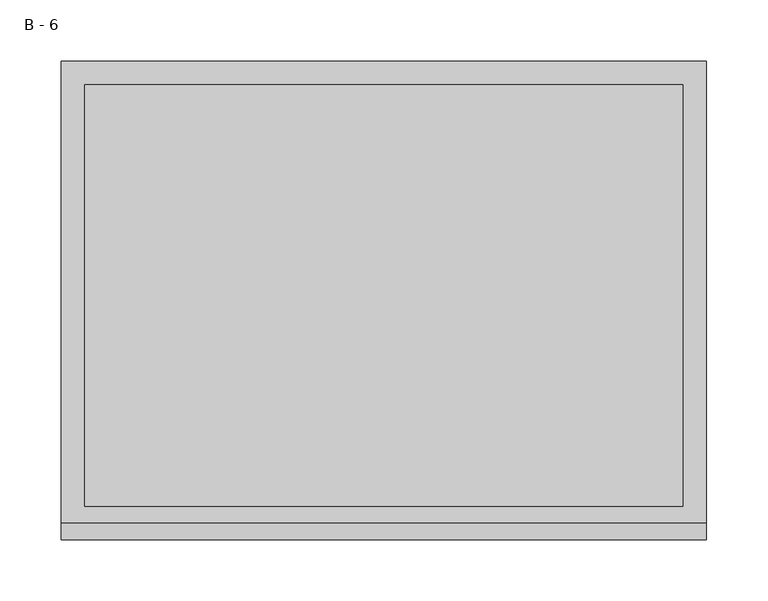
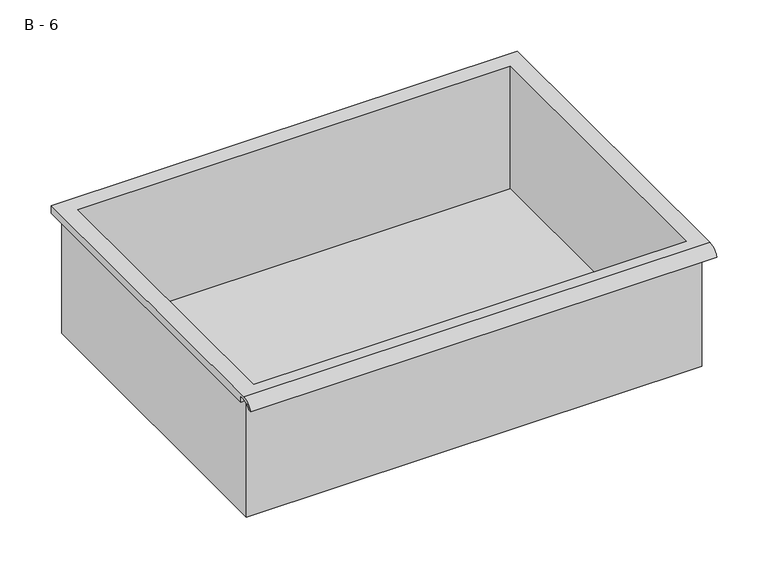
"""IFC4 building model written with IfcOpenShell, lengths in millimetres: furniture geometry, HermanMiller_CoStruc_Drawer : B - 6."""

from ifc_helpers import new_model, si_unit, frame, origin, place, context, project, spatial, polyline, circle_curve, source, transform, mapped, element, save
from ifc_brep_helpers import plane_surface, cylinder_surface, revolved_surface, advanced_brep


def b_6_50075038(model_context):
    return source(origin(), model_context, "Body", "AdvancedBrep", [
        advanced_brep(
        [(-257.1076517, -176.2125, 566.7502), (257.2423483, -176.2125, 566.7502), (257.2423483, -176.2125, 706.4502), (263.5923483, -176.2125, 706.4502), (263.5923483, -176.2125, 712.7573341), (-263.4576517, -176.2125, 712.7573341), (-263.4576517, -176.2125, 706.4502), (-257.1076517, -176.2125, 706.4502), (257.2423483, 185.7375, 566.7502), (-257.1076517, 185.7375, 566.7502), (-257.1076517, 185.7375, 706.4502), (257.2423483, 185.7375, 706.4502), (263.5923483, -181.6070544, 715.9752), (263.5923483, 195.2625, 715.9752), (-263.4576517, 195.2625, 715.9752), (-263.4576517, -181.6070544, 715.9752), (244.5423483, -168.275, 715.9752), (-244.4076517, -168.275, 715.9752), (-244.4076517, 176.2125, 715.9752), (244.5423483, 176.2125, 715.9752), (263.5923483, -195.2625, 706.4502), (263.5923483, -191.8280601, 706.4502), (263.5923483, -180.4714815, 712.7573341), (263.5923483, 195.2625, 706.4502), (-263.4576517, 195.2625, 706.4502), (-263.4576517, -180.4714815, 712.7573341), (-263.4576517, -191.8280601, 706.4502), (-263.4576517, -195.2625, 706.4502), (-244.4076517, -168.275, 569.7763719), (244.5423483, -168.275, 569.7763719), (244.5423483, 176.2125, 569.7763719), (-244.4076517, 176.2125, 569.7763719)],
        [
            (0, 1),
            (1, 2),
            (2, 3),
            (3, 4),
            (4, 5),
            (5, 6),
            (6, 7),
            (7, 0),
            (8, 9),
            (9, 10),
            (10, 11),
            (11, 8),
            (0, 9),
            (8, 1),
            (11, 2),
            (12, 13),
            (13, 14),
            (14, 15),
            (15, 12),
            (16, 17),
            (17, 18),
            (18, 19),
            (19, 16),
            (7, 10),
            (12, 20, circle_curve(frame((263.5923483, -181.6070544, 701.4241859), z_axis=(1.0, 0.0, 0.0), x_axis=(0.0, 1.0, 0.0)), 14.5510141)),
            (20, 21),
            (21, 22, circle_curve(frame((263.5923483, -181.6070544, 701.4241859), z_axis=(-1.0, 0.0, 0.0), x_axis=(0.0, 1.0, 0.0)), 11.3898979)),
            (22, 4),
            (3, 23),
            (23, 13),
            (14, 24),
            (24, 6),
            (5, 25),
            (25, 26, circle_curve(frame((-263.4576517, -181.6070544, 701.4241859), z_axis=(1.0, 0.0, 0.0), x_axis=(0.0, 1.0, 0.0)), 11.3898979)),
            (26, 27),
            (27, 15, circle_curve(frame((-263.4576517, -181.6070544, 701.4241859), z_axis=(-1.0, 0.0, 0.0), x_axis=(0.0, 1.0, 0.0)), 14.5510141)),
            (27, 20),
            (26, 21),
            (25, 22),
            (24, 23),
            (28, 29),
            (29, 30),
            (30, 31),
            (31, 28),
            (28, 17),
            (16, 29),
            (19, 30),
            (18, 31),
        ],
        [
            plane_surface(frame((257.2423483, -176.2125, 566.7502), z_axis=(0.0, -1.0, 0.0), x_axis=(1.0, 0.0, 0.0))),
            plane_surface(frame((257.2423483, 185.7375, 566.7502), z_axis=(0.0, 1.0, 0.0), x_axis=(-1.0, 0.0, 0.0))),
            plane_surface(frame((-257.1076517, -176.2125, 566.7502), z_axis=(0.0, 0.0, -1.0), x_axis=(0.0, 1.0, 0.0))),
            plane_surface(frame((257.2423483, -176.2125, 566.7502), z_axis=(1.0, 0.0, 0.0), x_axis=(0.0, 1.0, 0.0))),
            plane_surface(frame((257.2423483, -176.2125, 715.9752), z_axis=(0.0, 0.0, 1.0), x_axis=(0.0, 1.0, 0.0))),
            plane_surface(frame((-257.1076517, -176.2125, 715.9752), z_axis=(-1.0, 0.0, 0.0), x_axis=(0.0, 1.0, 0.0))),
            plane_surface(frame((263.5923483, 195.2625, 715.9752), z_axis=(1.0, 0.0, 0.0), x_axis=(0.0, -1.0, 0.0))),
            plane_surface(frame((-263.4576517, 195.2625, 715.9752), z_axis=(-1.0, 0.0, 0.0), x_axis=(0.0, 1.0, 0.0))),
            cylinder_surface(frame((-263.4576517, -181.6070544, 701.4241859), z_axis=(1.0, 0.0, 0.0), x_axis=(0.0, 1.0, 0.0)), 14.5510141),
            plane_surface(frame((263.5923483, -195.2625, 706.4502), z_axis=(0.0, 0.0, -1.0), x_axis=(-1.0, 0.0, 0.0))),
            revolved_surface(polyline([(-263.4576517, -170.21715650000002, 701.4241859), (263.59234829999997, -170.21715650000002, 701.4241859)]), (-263.4576517, -181.6070544, 701.4241859), (-1.0, 0.0, 0.0)),
            plane_surface(frame((263.5923483, -180.4714815, 712.7573341), z_axis=(0.0, 0.0, -1.0), x_axis=(-1.0, 0.0, 0.0))),
            plane_surface(frame((263.5923483, -176.2125, 706.4502), z_axis=(0.0, 0.0, -1.0), x_axis=(-1.0, 0.0, 0.0))),
            plane_surface(frame((263.5923483, 195.2625, 706.4502), z_axis=(0.0, 1.0, 0.0), x_axis=(-1.0, 0.0, 0.0))),
            plane_surface(frame((244.5423483, -168.275, 569.7763719), z_axis=(0.0, 0.0, 1.0), x_axis=(-1.0, 0.0, 0.0))),
            plane_surface(frame((-244.4076517, -168.275, 715.9752), z_axis=(0.0, 1.0, 0.0), x_axis=(0.0, 0.0, -1.0))),
            plane_surface(frame((244.5423483, -168.275, 715.9752), z_axis=(-1.0, 0.0, 0.0), x_axis=(0.0, 0.0, -1.0))),
            plane_surface(frame((244.5423483, 176.2125, 715.9752), z_axis=(0.0, -1.0, 0.0), x_axis=(0.0, 0.0, -1.0))),
            plane_surface(frame((-244.4076517, 176.2125, 715.9752), z_axis=(1.0, 0.0, 0.0), x_axis=(0.0, 0.0, -1.0))),
        ],
        [
            (0, [[1, 2, 3, 4, 5, 6, 7, 8]]),
            (1, [[9, 10, 11, 12]]),
            (2, [[-1, 13, -9, 14]]),
            (3, [[-14, -12, 15, -2]]),
            (4, [[16, 17, 18, 19], [20, 21, 22, 23]]),
            (5, [[-13, -8, 24, -10]]),
            (6, [[-16, 25, 26, 27, 28, -4, 29, 30]]),
            (7, [[31, 32, -6, 33, 34, 35, 36, -18]]),
            (8, [[-25, -19, -36, 37]]),
            (9, [[-26, -37, -35, 38]]),
            (10, [[-27, -38, -34, 39]]),
            (11, [[-28, -39, -33, -5]]),
            (12, [[-29, -3, -15, -11, -24, -7, -32, 40]]),
            (13, [[-30, -40, -31, -17]]),
            (14, [[41, 42, 43, 44]]),
            (15, [[-41, 45, -20, 46]]),
            (16, [[-42, -46, -23, 47]]),
            (17, [[-43, -47, -22, 48]]),
            (18, [[-44, -48, -21, -45]]),
        ],
    ),
    ])


if __name__ == "__main__":
    model = new_model("IFC4")
    model_context = context("Model", 3, world=origin())
    ifc_project = project(units=[si_unit("LENGTHUNIT", "METRE", prefix="MILLI")], contexts=[model_context])
    site = spatial("IfcSite", under=ifc_project)
    building = spatial("IfcBuilding", under=site)
    placement = place(None, origin())
    b_6_shape = b_6_50075038(model_context)
    element("IfcFurniture", 1, ObjectType="HermanMiller_CoStruc_Drawer : B - 6", at=placement, inside=building, context=model_context, shape_type="MappedRepresentation", body=[
        mapped(b_6_shape, transform((0.0, 0.0, 0.0), x_axis=(1.0, 0.0, 0.0), y_axis=(0.0, 1.0, 0.0), z_axis=(0.0, 0.0, 1.0))),
    ])
    save(model, "model.ifc")
